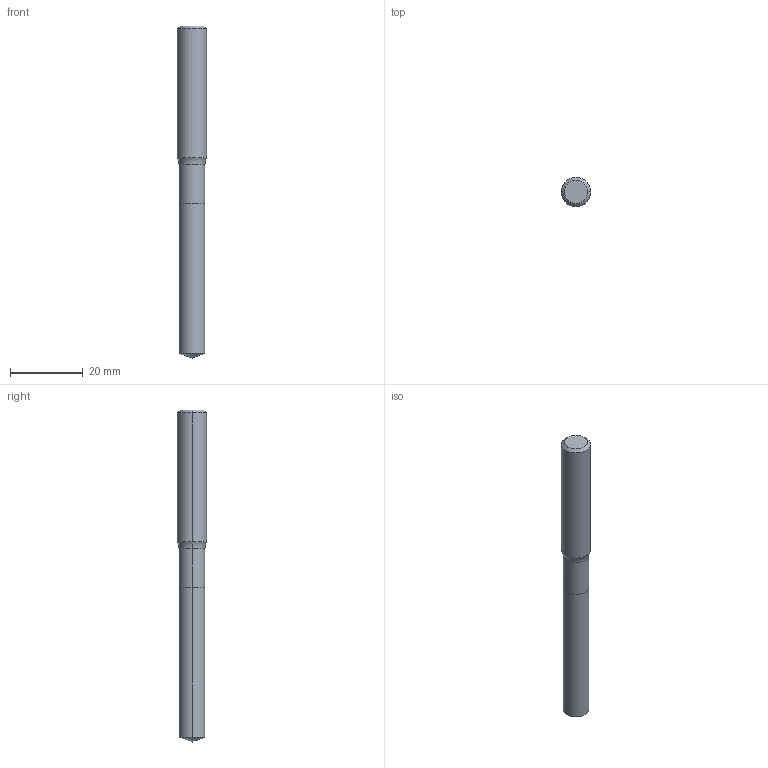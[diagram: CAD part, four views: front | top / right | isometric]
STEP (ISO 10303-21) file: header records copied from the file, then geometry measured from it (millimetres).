
FILE_DESCRIPTION (( 'STEP AP214' ), '1' );
FILE_NAME ('905.071.00_3D-model.step', '2022-02-24T17:45:09', ( '' ), ( '' ), 'SwSTEP 2.0', 'SolidWorks 2020', '' );
FILE_SCHEMA (( 'AUTOMOTIVE_DESIGN' ));
Length unit declared in the file: millimetre
Products named in the file (3): NOCUT-3D^Baugr57; CUT-3D^Baugr57; 905.071.00_3D-model
Assembly tree (2 placements, depth 2):
  905.071.00_3D-model
    CUT-3D^Baugr57
    NOCUT-3D^Baugr57
Bounding box: 8 x 8 x 91 mm (x, y, z)
Volume: 3953.4 mm3; surface area: 2265.6 mm2
Topology: 2 solids, 2 shells, 15 faces, 28 edges, 15 vertices
Faces by surface type: cylinder 6, cone 4, plane 3, torus 2
Entity records: 482 total; most frequent: DIRECTION 88, CARTESIAN_POINT 64, ORIENTED_EDGE 52, AXIS2_PLACEMENT_3D 39, EDGE_CURVE 26, CIRCLE 16, EDGE_LOOP 15, VERTEX_POINT 15
